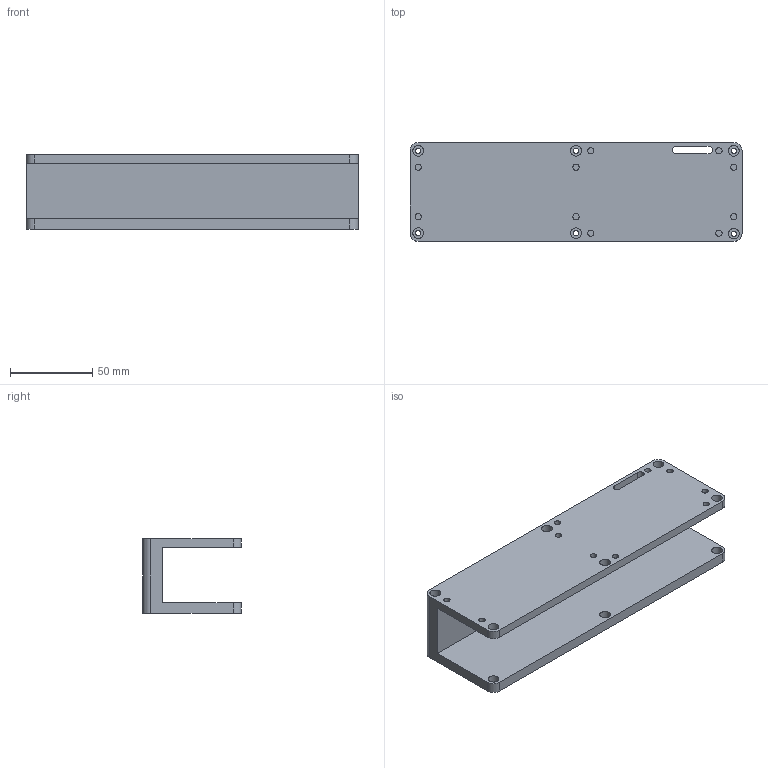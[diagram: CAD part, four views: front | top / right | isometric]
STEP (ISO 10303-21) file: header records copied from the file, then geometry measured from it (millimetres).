
FILE_DESCRIPTION(/* description */ (''),/* implementation_level */ '2;1');
FILE_NAME(/* name */ 'C:\Users\Karol\Documents\Inventor\gniazdo_desktop\C-Clamp_Bracket_30mm.stp',/* time_stamp */ '2026-03-16T23:13:47+01:00',/* author */ ('Karol'),/* organization */ (''),/* preprocessor_version */ 'ST-DEVELOPER v16.1',/* originating_system */ 'Autodesk Inventor 2016',/* authorisation */ '');
FILE_SCHEMA (('AUTOMOTIVE_DESIGN { 1 0 10303 214 3 1 1 }'));
Length unit declared in the file: millimetre
Products named in the file (1): blat_holder30mm
Bounding box: 201.44 x 60 x 45.3 mm (x, y, z)
Volume: 212129.7 mm3; surface area: 69513 mm2
Topology: 1 solids, 1 shells, 53 faces, 131 edges, 90 vertices
Faces by surface type: cylinder 33, plane 20
Full cylindrical faces by diameter (mm): 3.2 x6, 3.8 x10, 6.5 x9
Entity records: 1584 total; most frequent: DIRECTION 280, CARTESIAN_POINT 250, ORIENTED_EDGE 208, EDGE_LOOP 122, AXIS2_PLACEMENT_3D 120, EDGE_CURVE 104, VERTEX_POINT 86, FACE_BOUND 69
